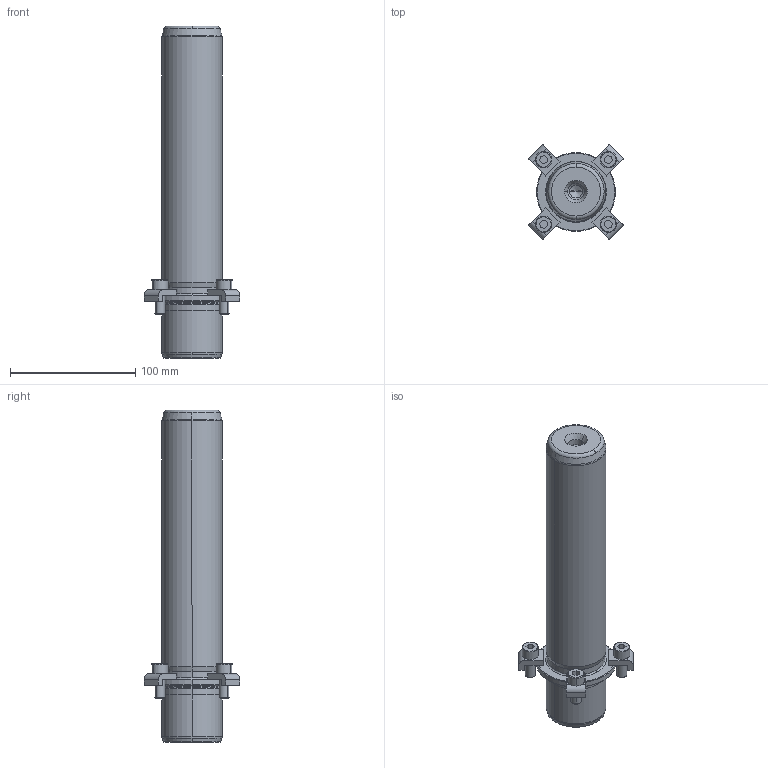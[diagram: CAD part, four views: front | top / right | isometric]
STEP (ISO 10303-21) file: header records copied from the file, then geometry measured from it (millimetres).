
FILE_DESCRIPTION((''),'2;1');
FILE_NAME('P21_048_220.stp','2008-12-23T13:39:02',(''),(''),'Mechanical Desktop 2009','Mechanical Desktop 2009',', , ');
FILE_SCHEMA(('CONFIG_CONTROL_DESIGN'));
Length unit declared in the file: millimetre
Products named in the file (2): Product; blmdl1
Assembly tree (1 placements, depth 2):
  Product
    blmdl1
Bounding box: 76.01 x 76.01 x 265 mm (x, y, z)
Volume: 488604.7 mm3; surface area: 57376.8 mm2
Topology: 9 solids, 9 shells, 195 faces, 477 edges, 309 vertices
Faces by surface type: plane 77, cylinder 52, cone 34, torus 16, bspline 16
Entity records: 6547 total; most frequent: CARTESIAN_POINT 1683, DIRECTION 1078, ORIENTED_EDGE 946, EDGE_CURVE 473, AXIS2_PLACEMENT_3D 424, VERTEX_POINT 309, CIRCLE 243, VECTOR 230
